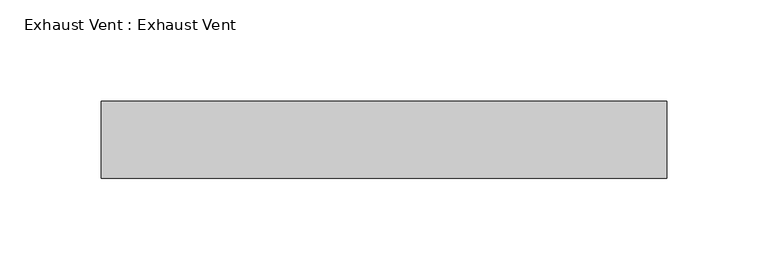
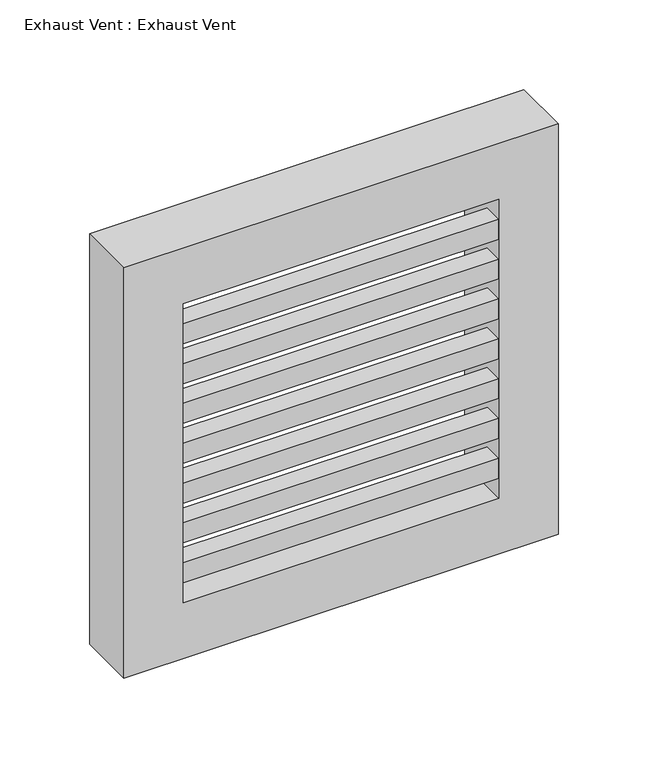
"""IFC4 building model written with IfcOpenShell, lengths in millimetres: proxy geometry, Exhaust Vent : Exhaust Vent."""

import ifcopenshell
import ifcopenshell.guid

model = None  # the IFC model being written
_history = None  # IfcOwnerHistory: only IFC2X3 demands one
_inside = {}  # id of a spatial element -> (the spatial element, [elements in it])
_under = {}  # id of a project, library or spatial element -> (it, [spatial elements below it])
_declared = {}  # id of a project -> (the project, [libraries it declares])
_typed = {}  # id of a type object -> (the type object, [elements of that type])
_made_of = {}  # id of a material, layer set ... -> (it, [elements and type objects made of it])


def new_model(schema):
    """Start an empty IFC model of exactly this schema.

    Asked for "IFC4X3", IfcOpenShell would pick the latest addendum, in which some entities
    have other attributes; the version numbers below select the first issue.
    IFC2X3 requires an IfcOwnerHistory on every rooted entity: one is made here for all.
    """
    global model, _history
    if schema == "IFC4X3":
        model = ifcopenshell.file(schema_version=(4, 3, 0, 0))
    else:
        model = ifcopenshell.file(schema=schema)
    _inside.clear()
    _under.clear()
    _declared.clear()
    _typed.clear()
    _made_of.clear()
    _history = None
    if model.schema == "IFC2X3":
        org = make("IfcOrganization", Name="unknown")
        user = make(
            "IfcPersonAndOrganization",
            ThePerson=make("IfcPerson", FamilyName="unknown"),
            TheOrganization=org,
        )
        app = make(
            "IfcApplication",
            ApplicationDeveloper=org,
            Version="unknown",
            ApplicationFullName="unknown",
            ApplicationIdentifier="unknown",
        )
        _history = make(
            "IfcOwnerHistory",
            OwningUser=user,
            OwningApplication=app,
            ChangeAction="ADDED",
            CreationDate=0,
        )
    return model


def make(cls, **values):
    """One entity of the class cls with the attributes given. An attribute that is None is left unset."""
    return model.create_entity(
        cls, **{name: value for name, value in values.items() if value is not None}
    )


def rooted(cls, **values):
    """An entity with a GlobalId (a new one), such as an element, a storey or a relation."""
    return make(cls, GlobalId=ifcopenshell.guid.new(), OwnerHistory=_history, **values)


def si_unit(unit_type, name, prefix=None):
    """IfcSIUnit, for example si_unit("LENGTHUNIT", "METRE", prefix="MILLI")."""
    return make("IfcSIUnit", UnitType=unit_type, Prefix=prefix, Name=name)


def assignment(units):
    """IfcUnitAssignment: the units of a project."""
    return None if units is None else make("IfcUnitAssignment", Units=units)


def point(xyz):
    """IfcCartesianPoint."""
    return None if xyz is None else make("IfcCartesianPoint", Coordinates=xyz)


def direction(xyz):
    """IfcDirection."""
    return None if xyz is None else make("IfcDirection", DirectionRatios=xyz)


def frame(location, z_axis=None, x_axis=None):
    """IfcAxis2Placement3D, a coordinate frame: its origin and axes. An axis left out is left unset."""
    return make(
        "IfcAxis2Placement3D",
        Location=point(location),
        Axis=direction(z_axis),
        RefDirection=direction(x_axis),
    )


def origin():
    """The frame at (0, 0, 0) with its axes left unset."""
    return frame((0.0, 0.0, 0.0))


def place(relative_to, where):
    """IfcLocalPlacement: puts the frame where relative to a parent placement (None: the world)."""
    return make(
        "IfcLocalPlacement", PlacementRelTo=relative_to, RelativePlacement=where
    )


def context(
    kind, dimensions, precision=None, world=None, true_north=None, identifier=None
):
    """IfcGeometricRepresentationContext, for example the 3D "Model" context."""
    return make(
        "IfcGeometricRepresentationContext",
        ContextIdentifier=identifier,
        ContextType=kind,
        CoordinateSpaceDimension=dimensions,
        Precision=precision,
        WorldCoordinateSystem=world,
        TrueNorth=true_north,
    )


def project(units=None, contexts=None):
    """IfcProject with its units and contexts."""
    return rooted(
        "IfcProject",
        Name="project",
        RepresentationContexts=contexts,
        UnitsInContext=assignment(units),
    )


def spatial(cls, under=None, at=None, **own):
    """A site, building, storey or space (cls), placed at a placement, below another one or the project."""
    s = rooted(cls, ObjectPlacement=at, **own)
    if under is not None:
        _under.setdefault(under.id(), (under, []))[1].append(s)
    return s


def polyline(points):
    """IfcPolyline through the points."""
    return make("IfcPolyline", Points=[point(p) for p in points])


def outline(outer, holes=None, kind="AREA"):
    """IfcArbitraryClosedProfileDef: a profile drawn as a closed curve; with holes, ...WithVoids."""
    if holes is None:
        return make("IfcArbitraryClosedProfileDef", ProfileType=kind, OuterCurve=outer)
    return make(
        "IfcArbitraryProfileDefWithVoids",
        ProfileType=kind,
        OuterCurve=outer,
        InnerCurves=holes,
    )


def extrude(swept, where, along, depth):
    """IfcExtrudedAreaSolid: the profile swept, set in the frame where, extruded along a direction by depth."""
    return make(
        "IfcExtrudedAreaSolid",
        SweptArea=swept,
        Position=where,
        ExtrudedDirection=direction(along),
        Depth=depth,
    )


def shape(context_of_items, identifier, shape_type, items):
    """IfcShapeRepresentation: the items that make up one representation, for example the "Body"."""
    return make(
        "IfcShapeRepresentation",
        ContextOfItems=context_of_items,
        RepresentationIdentifier=identifier,
        RepresentationType=shape_type,
        Items=items,
    )


def source(mapping_origin, context_of_items, identifier, shape_type, items):
    """IfcRepresentationMap: a shape defined once, which mapped items show again and again."""
    return make(
        "IfcRepresentationMap",
        MappingOrigin=mapping_origin,
        MappedRepresentation=shape(context_of_items, identifier, shape_type, items),
    )


def transform(
    local_origin,
    x_axis=None,
    y_axis=None,
    z_axis=None,
    scale=None,
    scale2=None,
    scale3=None,
    uniform=True,
):
    """IfcCartesianTransformationOperator3D, or its non-uniform kind. x_axis, y_axis, z_axis: its Axis1, 2, 3."""
    if uniform:
        return make(
            "IfcCartesianTransformationOperator3D",
            Axis1=direction(x_axis),
            Axis2=direction(y_axis),
            LocalOrigin=point(local_origin),
            Scale=scale,
            Axis3=direction(z_axis),
        )
    return make(
        "IfcCartesianTransformationOperator3DnonUniform",
        Axis1=direction(x_axis),
        Axis2=direction(y_axis),
        LocalOrigin=point(local_origin),
        Scale=scale,
        Axis3=direction(z_axis),
        Scale2=scale2,
        Scale3=scale3,
    )


def mapped(mapping_source, mapping_target):
    """IfcMappedItem: shows the shape of a source again, moved by a transform."""
    return make(
        "IfcMappedItem", MappingSource=mapping_source, MappingTarget=mapping_target
    )


def made_of(thing, what):
    """Note that an element or type object is made of a material, layer set ...; save() writes the relation."""
    if what is not None:
        _made_of.setdefault(what.id(), (what, []))[1].append(thing)
    return thing


def element(
    cls,
    number,
    at=None,
    inside=None,
    cuts=None,
    type_object=None,
    material=None,
    context=None,
    identifier="Body",
    shape_type=None,
    held_by="IfcProductDefinitionShape",
    body=None,
    shapes=None,
    **own,
):
    """One element of the class cls, such as IfcWall. Its Tag is "e" and its number.

    at: its placement. inside: the storey or other place that contains it. cuts: it is an
    opening in that element (IfcRelVoidsElement). A single representation is given by context,
    identifier, shape_type and body (its items); several are given by shapes. held_by: the class
    of the entity that holds the representations. save() writes the other relations.
    """
    e = rooted(cls, Tag="e%d" % number, ObjectPlacement=at, **own)
    if body is not None:
        shapes = [shape(context, identifier, shape_type, body)]
    if shapes is not None:
        e.Representation = make(held_by, Representations=shapes)
    if inside is not None:
        _inside.setdefault(inside.id(), (inside, []))[1].append(e)
    if cuts is not None:
        rooted(
            "IfcRelVoidsElement", RelatingBuildingElement=cuts, RelatedOpeningElement=e
        )
    if type_object is not None:
        _typed.setdefault(type_object.id(), (type_object, []))[1].append(e)
    return made_of(e, material)


def aggregate(whole, parts):
    """IfcRelAggregates: a whole, such as a stair, and the parts it consists of."""
    return rooted("IfcRelAggregates", RelatingObject=whole, RelatedObjects=parts)


def save(model, path):
    """Write the relations noted so far, then the file.

    IfcRelAggregates (storeys below a building ...), IfcRelContainedInSpatialStructure (elements
    in a storey), IfcRelDefinesByType, IfcRelAssociatesMaterial and IfcRelDeclares: one each for
    every whole, place, type object, material and project.
    """
    for whole, parts in _under.values():
        aggregate(whole, parts)
    for where, things in _inside.values():
        rooted(
            "IfcRelContainedInSpatialStructure",
            RelatedElements=things,
            RelatingStructure=where,
        )
    for kind, things in _typed.values():
        rooted("IfcRelDefinesByType", RelatedObjects=things, RelatingType=kind)
    for what, things in _made_of.values():
        rooted("IfcRelAssociatesMaterial", RelatedObjects=things, RelatingMaterial=what)
    for by, libraries in _declared.values():
        rooted("IfcRelDeclares", RelatingContext=by, RelatedDefinitions=libraries)
    model.write(path)


def exhaust_vent_exhaust_vent_9e1b2ee5(model_context):
    return source(origin(), model_context, "Body", "SweptSolid", [
        extrude(outline(polyline([(2070.1, -147.8443955), (1790.7, -147.8443955), (1790.7, 131.5556045), (2070.1, 131.5556045), (2070.1, -147.8443955)]), holes=[polyline([(2032.0, 93.4556045), (1828.8, 93.4556045), (1828.8, -109.7443955), (2032.0, -109.7443955), (2032.0, 93.4556045)])]), frame((0.0, 127.0, 0.0), z_axis=(0.0, 1.0, 0.0), x_axis=(0.0, 0.0, 1.0)), (0.0, 0.0, 1.0), 38.1),
        extrude(outline(polyline([(93.4556045, 127.0), (-109.7443955, 127.0), (-109.7443955, 139.7), (93.4556045, 139.7), (93.4556045, 127.0)])), frame((0.0, 0.0, 2004.9066667), z_axis=(0.0, 0.0, 1.0), x_axis=(1.0, 0.0, 0.0)), (0.0, 0.0, 1.0), 13.5466667),
        extrude(outline(polyline([(93.4556045, 127.0), (-109.7443955, 127.0), (-109.7443955, 139.7), (93.4556045, 139.7), (93.4556045, 127.0)])), frame((0.0, 0.0, 1977.8133333), z_axis=(0.0, 0.0, 1.0), x_axis=(1.0, 0.0, 0.0)), (0.0, 0.0, 1.0), 13.5466667),
        extrude(outline(polyline([(93.4556045, 127.0), (-109.7443955, 127.0), (-109.7443955, 139.7), (93.4556045, 139.7), (93.4556045, 127.0)])), frame((0.0, 0.0, 1950.72), z_axis=(0.0, 0.0, 1.0), x_axis=(1.0, 0.0, 0.0)), (0.0, 0.0, 1.0), 13.5466667),
        extrude(outline(polyline([(93.4556045, 127.0), (-109.7443955, 127.0), (-109.7443955, 139.7), (93.4556045, 139.7), (93.4556045, 127.0)])), frame((0.0, 0.0, 1923.6266667), z_axis=(0.0, 0.0, 1.0), x_axis=(1.0, 0.0, 0.0)), (0.0, 0.0, 1.0), 13.5466667),
        extrude(outline(polyline([(93.4556045, 127.0), (-109.7443955, 127.0), (-109.7443955, 139.7), (93.4556045, 139.7), (93.4556045, 127.0)])), frame((0.0, 0.0, 1896.5333333), z_axis=(0.0, 0.0, 1.0), x_axis=(1.0, 0.0, 0.0)), (0.0, 0.0, 1.0), 13.5466667),
        extrude(outline(polyline([(93.4556045, 127.0), (-109.7443955, 127.0), (-109.7443955, 139.7), (93.4556045, 139.7), (93.4556045, 127.0)])), frame((0.0, 0.0, 1869.44), z_axis=(0.0, 0.0, 1.0), x_axis=(1.0, 0.0, 0.0)), (0.0, 0.0, 1.0), 13.5466667),
        extrude(outline(polyline([(93.4556045, 127.0), (-109.7443955, 127.0), (-109.7443955, 139.7), (93.4556045, 139.7), (93.4556045, 127.0)])), frame((0.0, 0.0, 1842.3466667), z_axis=(0.0, 0.0, 1.0), x_axis=(1.0, 0.0, 0.0)), (0.0, 0.0, 1.0), 13.5466667),
    ])


if __name__ == "__main__":
    model = new_model("IFC4")
    model_context = context("Model", 3, world=origin())
    ifc_project = project(units=[si_unit("LENGTHUNIT", "METRE", prefix="MILLI")], contexts=[model_context])
    site = spatial("IfcSite", under=ifc_project)
    building = spatial("IfcBuilding", under=site)
    placement = place(None, origin())
    exhaust_vent_exhaust_vent_shape = exhaust_vent_exhaust_vent_9e1b2ee5(model_context)
    element("IfcBuildingElementProxy", 1, Name="Exhaust Vent : Exhaust Vent", ObjectType="Exhaust Vent : Exhaust Vent", at=placement, inside=building, context=model_context, shape_type="MappedRepresentation", body=[
        mapped(exhaust_vent_exhaust_vent_shape, transform((0.0, 0.0, 0.0), x_axis=(1.0, 0.0, 0.0), y_axis=(0.0, 1.0, 0.0), z_axis=(0.0, 0.0, 1.0))),
    ])
    save(model, "model.ifc")
